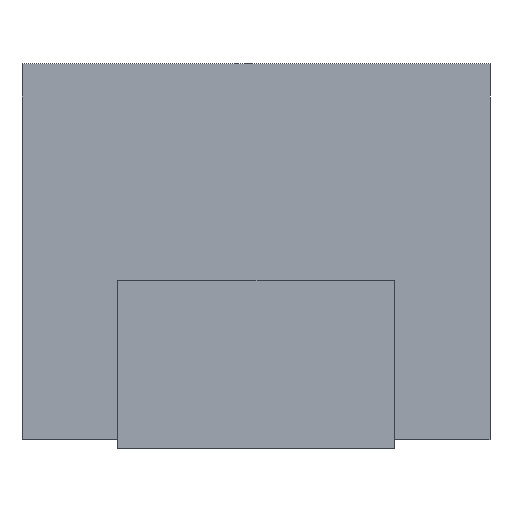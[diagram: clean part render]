
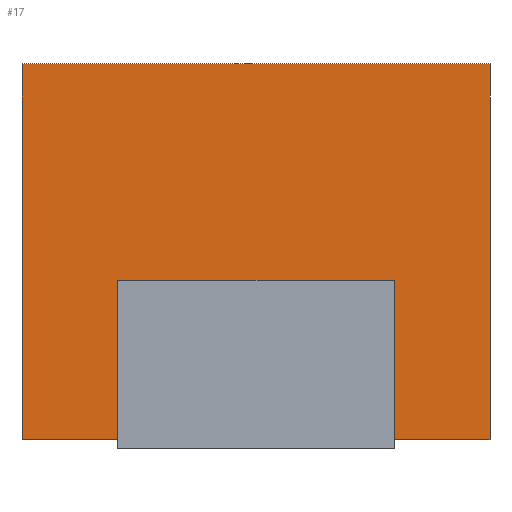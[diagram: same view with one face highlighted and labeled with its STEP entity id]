
A CAD part, left-side view. The second image highlights one B-rep face of the part: STEP entity #17.
In plain terms, the highlighted planar face has unit normal (-1, 0, 0).
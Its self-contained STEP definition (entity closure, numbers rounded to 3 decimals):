
#17 = ADVANCED_FACE('',(#18),#84,.F.);
#18 = FACE_BOUND('',#19,.F.);
#19 = EDGE_LOOP('',(#20,#30,#38,#46,#54,#62,#70,#78));
#20 = ORIENTED_EDGE('',*,*,#21,.F.);
#21 = EDGE_CURVE('',#22,#24,#26,.T.);
#22 = VERTEX_POINT('',#23);
#23 = CARTESIAN_POINT('',(-2.25,-1.395,2.29));
#24 = VERTEX_POINT('',#25);
#25 = CARTESIAN_POINT('',(-2.25,1.395,2.29));
#26 = LINE('',#27,#28);
#27 = CARTESIAN_POINT('',(-2.25,-1.395,2.29));
#28 = VECTOR('',#29,1.);
#29 = DIRECTION('',(-0.,1.,0.));
#30 = ORIENTED_EDGE('',*,*,#31,.F.);
#31 = EDGE_CURVE('',#32,#22,#34,.T.);
#32 = VERTEX_POINT('',#33);
#33 = CARTESIAN_POINT('',(-2.25,-1.395,0.05));
#34 = LINE('',#35,#36);
#35 = CARTESIAN_POINT('',(-2.25,-1.395,0.05));
#36 = VECTOR('',#37,1.);
#37 = DIRECTION('',(0.,0.,1.));
#38 = ORIENTED_EDGE('',*,*,#39,.T.);
#39 = EDGE_CURVE('',#32,#40,#42,.T.);
#40 = VERTEX_POINT('',#41);
#41 = CARTESIAN_POINT('',(-2.25,-0.825,0.05));
#42 = LINE('',#43,#44);
#43 = CARTESIAN_POINT('',(-2.25,-1.395,0.05));
#44 = VECTOR('',#45,1.);
#45 = DIRECTION('',(-0.,1.,0.));
#46 = ORIENTED_EDGE('',*,*,#47,.T.);
#47 = EDGE_CURVE('',#40,#48,#50,.T.);
#48 = VERTEX_POINT('',#49);
#49 = CARTESIAN_POINT('',(-2.25,-0.825,1.));
#50 = LINE('',#51,#52);
#51 = CARTESIAN_POINT('',(-2.25,-0.825,0.));
#52 = VECTOR('',#53,1.);
#53 = DIRECTION('',(0.,0.,1.));
#54 = ORIENTED_EDGE('',*,*,#55,.T.);
#55 = EDGE_CURVE('',#48,#56,#58,.T.);
#56 = VERTEX_POINT('',#57);
#57 = CARTESIAN_POINT('',(-2.25,0.825,1.));
#58 = LINE('',#59,#60);
#59 = CARTESIAN_POINT('',(-2.25,-0.825,1.));
#60 = VECTOR('',#61,1.);
#61 = DIRECTION('',(-0.,1.,0.));
#62 = ORIENTED_EDGE('',*,*,#63,.F.);
#63 = EDGE_CURVE('',#64,#56,#66,.T.);
#64 = VERTEX_POINT('',#65);
#65 = CARTESIAN_POINT('',(-2.25,0.825,0.05));
#66 = LINE('',#67,#68);
#67 = CARTESIAN_POINT('',(-2.25,0.825,0.));
#68 = VECTOR('',#69,1.);
#69 = DIRECTION('',(0.,0.,1.));
#70 = ORIENTED_EDGE('',*,*,#71,.T.);
#71 = EDGE_CURVE('',#64,#72,#74,.T.);
#72 = VERTEX_POINT('',#73);
#73 = CARTESIAN_POINT('',(-2.25,1.395,0.05));
#74 = LINE('',#75,#76);
#75 = CARTESIAN_POINT('',(-2.25,-1.395,0.05));
#76 = VECTOR('',#77,1.);
#77 = DIRECTION('',(-0.,1.,0.));
#78 = ORIENTED_EDGE('',*,*,#79,.T.);
#79 = EDGE_CURVE('',#72,#24,#80,.T.);
#80 = LINE('',#81,#82);
#81 = CARTESIAN_POINT('',(-2.25,1.395,0.05));
#82 = VECTOR('',#83,1.);
#83 = DIRECTION('',(0.,0.,1.));
#84 = PLANE('',#85);
#85 = AXIS2_PLACEMENT_3D('',#86,#87,#88);
#86 = CARTESIAN_POINT('',(-2.25,-1.395,0.05));
#87 = DIRECTION('',(1.,0.,-0.));
#88 = DIRECTION('',(0.,0.,1.));
